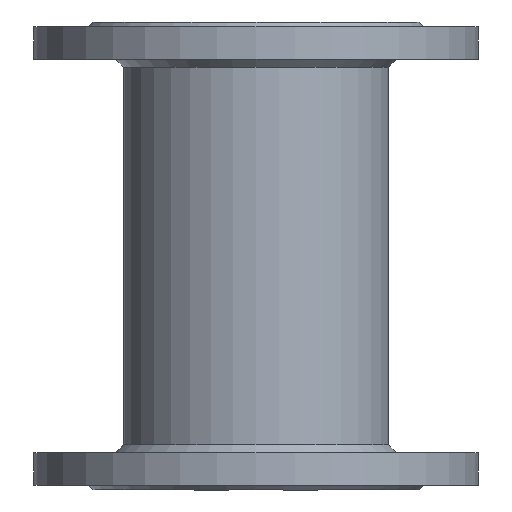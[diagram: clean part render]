
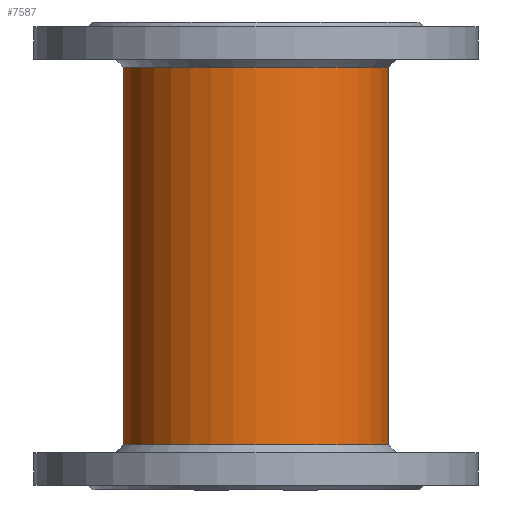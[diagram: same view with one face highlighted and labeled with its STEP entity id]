
A CAD part, front view. The second image highlights one B-rep face of the part: STEP entity #7587.
In plain terms, the highlighted cylindrical face has radius 85 mm (diameter 170 mm), a full revolution.
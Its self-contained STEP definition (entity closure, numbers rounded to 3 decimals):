
#770=CIRCLE('',#27007,85.);
#771=CIRCLE('',#27008,85.);
#3065=LINE('',#44423,#5848);
#3066=LINE('',#44436,#5849);
#5848=VECTOR('',#31875,1.);
#5849=VECTOR('',#31876,1.);
#5968=CYLINDRICAL_SURFACE('',#27009,85.);
#6198=FACE_BOUND('',#11063,.T.);
#6199=FACE_BOUND('',#11064,.T.);
#6200=FACE_BOUND('',#11065,.T.);
#7587=ADVANCED_FACE('',(#6198,#6199,#6200),#5968,.T.);
#11063=EDGE_LOOP('',(#18268,#18269,#18270,#18271));
#11064=EDGE_LOOP('',(#18272));
#11065=EDGE_LOOP('',(#18273));
#18268=ORIENTED_EDGE('',*,*,#24354,.F.);
#18269=ORIENTED_EDGE('',*,*,#24358,.T.);
#18270=ORIENTED_EDGE('',*,*,#24356,.F.);
#18271=ORIENTED_EDGE('',*,*,#24359,.T.);
#18272=ORIENTED_EDGE('',*,*,#24360,.T.);
#18273=ORIENTED_EDGE('',*,*,#24361,.T.);
#20750=VERTEX_POINT('',#44421);
#20751=VERTEX_POINT('',#44422);
#20752=VERTEX_POINT('',#44424);
#20753=VERTEX_POINT('',#44435);
#20755=VERTEX_POINT('',#44462);
#20756=VERTEX_POINT('',#44464);
#24354=EDGE_CURVE('',#20751,#20752,#3065,.T.);
#24356=EDGE_CURVE('',#20753,#20750,#3066,.T.);
#24358=EDGE_CURVE('',#20751,#20750,#25979,.T.);
#24359=EDGE_CURVE('',#20753,#20752,#25980,.T.);
#24360=EDGE_CURVE('',#20755,#20755,#770,.T.);
#24361=EDGE_CURVE('',#20756,#20756,#771,.T.);
#25979=B_SPLINE_CURVE_WITH_KNOTS('',3,(#44441,#44442,#44443,#44444,#44445,
#44446,#44447,#44448,#44449,#44450),.UNSPECIFIED.,.F.,.F.,(4,2,2,2,4),(0.,
0.25,0.5,0.75,1.),.UNSPECIFIED.);
#25980=B_SPLINE_CURVE_WITH_KNOTS('',3,(#44451,#44452,#44453,#44454,#44455,
#44456,#44457,#44458,#44459,#44460),.UNSPECIFIED.,.F.,.F.,(4,2,2,2,4),(0.,
0.25,0.5,0.75,1.),.UNSPECIFIED.);
#27007=AXIS2_PLACEMENT_3D('',#44461,#31883,#31884);
#27008=AXIS2_PLACEMENT_3D('',#44463,#31885,#31886);
#27009=AXIS2_PLACEMENT_3D('',#44465,#31887,#31888);
#31875=DIRECTION('',(0.,0.,-1.));
#31876=DIRECTION('',(0.,0.,1.));
#31883=DIRECTION('',(0.,0.,-1.));
#31884=DIRECTION('',(0.,1.,0.));
#31885=DIRECTION('',(0.,0.,1.));
#31886=DIRECTION('',(0.,-1.,0.));
#31887=DIRECTION('',(0.,0.,-1.));
#31888=DIRECTION('',(0.,-1.,0.));
#44421=CARTESIAN_POINT('',(-18.33,6.,11.397));
#44422=CARTESIAN_POINT('',(18.33,6.,11.397));
#44423=CARTESIAN_POINT('',(18.33,6.,-916.158));
#44424=CARTESIAN_POINT('',(18.33,6.,-11.396));
#44435=CARTESIAN_POINT('',(-18.33,6.,-11.398));
#44436=CARTESIAN_POINT('',(-18.33,6.,-916.158));
#44441=CARTESIAN_POINT('',(18.33,6.,11.397));
#44442=CARTESIAN_POINT('',(16.017,6.511,13.931));
#44443=CARTESIAN_POINT('',(13.127,7.04,15.867));
#44444=CARTESIAN_POINT('',(6.851,7.782,18.464));
#44445=CARTESIAN_POINT('',(3.404,8.001,19.143));
#44446=CARTESIAN_POINT('',(-3.439,7.999,19.136));
#44447=CARTESIAN_POINT('',(-6.867,7.782,18.462));
#44448=CARTESIAN_POINT('',(-13.191,7.031,15.835));
#44449=CARTESIAN_POINT('',(-16.016,6.511,13.933));
#44450=CARTESIAN_POINT('',(-18.33,6.,11.397));
#44451=CARTESIAN_POINT('',(-18.33,6.,-11.398));
#44452=CARTESIAN_POINT('',(-16.016,6.511,-13.929));
#44453=CARTESIAN_POINT('',(-13.126,7.04,-15.864));
#44454=CARTESIAN_POINT('',(-6.853,7.782,-18.468));
#44455=CARTESIAN_POINT('',(-3.404,8.001,-19.14));
#44456=CARTESIAN_POINT('',(3.437,7.999,-19.139));
#44457=CARTESIAN_POINT('',(6.866,7.782,-18.466));
#44458=CARTESIAN_POINT('',(13.187,7.031,-15.834));
#44459=CARTESIAN_POINT('',(16.015,6.511,-13.934));
#44460=CARTESIAN_POINT('',(18.33,6.,-11.396));
#44461=CARTESIAN_POINT('',(0.,-77.,91.242));
#44462=CARTESIAN_POINT('',(0.,8.,91.242));
#44463=CARTESIAN_POINT('',(0.,-77.,-150.758));
#44464=CARTESIAN_POINT('',(0.,-162.,-150.758));
#44465=CARTESIAN_POINT('',(0.,-77.,-916.158));
